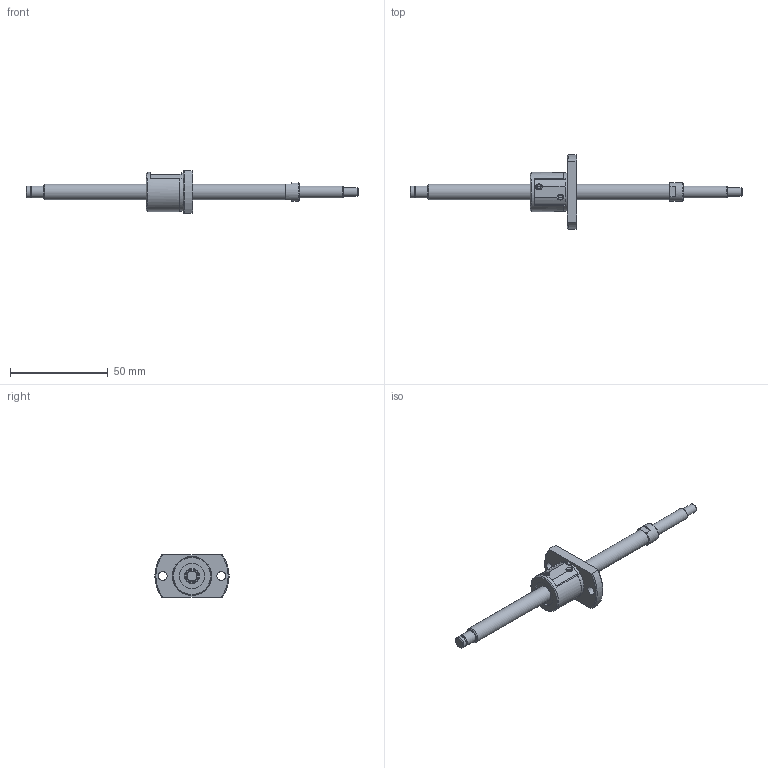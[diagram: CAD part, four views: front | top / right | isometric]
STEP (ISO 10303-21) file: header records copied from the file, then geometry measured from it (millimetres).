
FILE_DESCRIPTION(/* description */ ('STEP AP214'),/* implementation_level */ '2;1');
FILE_NAME(/* name */ 'SG0802-120R170C3B0X(52.5)',/* time_stamp */ '2026-07-21T16:45:06+02:00',/* author */ ('License CC BY-ND 4.0'),/* organization */ ('CADENAS'),/* preprocessor_version */ 'ST-DEVELOPER v20',/* originating_system */ 'PARTsolutions',/* authorisation */ ' ');
FILE_SCHEMA (('AUTOMOTIVE_DESIGN {1 0 10303 214 3 1 1}'));
Length unit declared in the file: millimetre
Products named in the file (3): SG0802-120R170C3B0X(52.5); SG0802-120R170C3B_shaft; SG0802_nut
Assembly tree (2 placements, depth 2):
  SG0802-120R170C3B0X(52.5)
    SG0802-120R170C3B_shaft
    SG0802_nut
Bounding box: 170 x 38 x 22 mm (x, y, z)
Volume: 15888.9 mm3; surface area: 8064.1 mm2
Topology: 2 solids, 2 shells, 79 faces, 187 edges, 122 vertices
Faces by surface type: plane 38, cylinder 26, cone 14, torus 1
Full cylindrical faces by diameter (mm): 4.5 x3, 5.7 x1, 6 x3, 8 x2, 9.5 x1, 13 x2, 19.7 x1, 20 x1
Entity records: 2197 total; most frequent: CARTESIAN_POINT 408, DIRECTION 374, ORIENTED_EDGE 306, AXIS2_PLACEMENT_3D 157, EDGE_CURVE 153, EDGE_LOOP 120, FACE_BOUND 120, VERTEX_POINT 113
